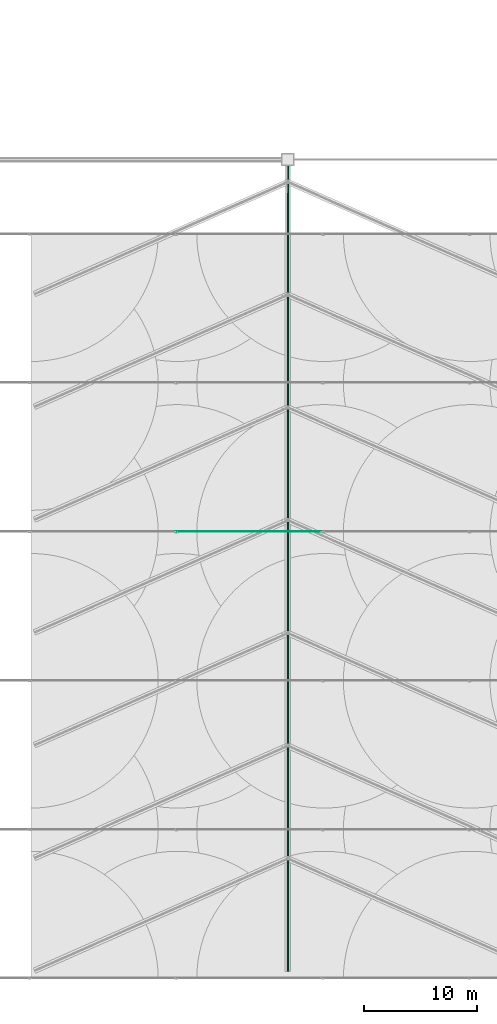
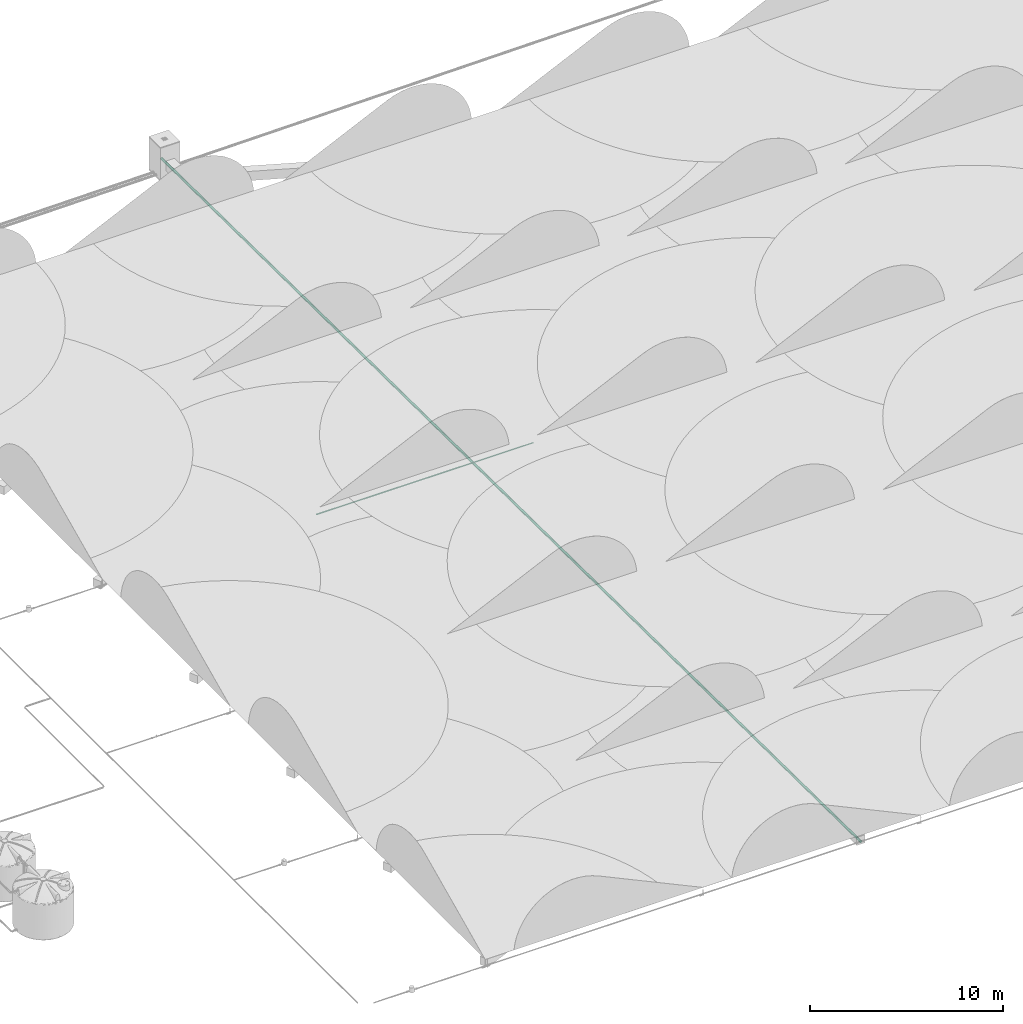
# One storey, part 19 of 166: 2 flow segments.
"""IFC2X3 building model written with IfcOpenShell, lengths in metres."""

from ifc_helpers import new_model, entity, si_unit, converted_unit, direction, frame, frame_2d, origin, origin_2d_with_axis, place, context, subcontext, project, spatial, circle, extrude, type_object, element, save


model = new_model("IFC2X3")

# Units and contexts
model_context = context("Model", 3, precision=1e-05, world=origin(), true_north=direction((6.123233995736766e-17, 1.0)))
body_context = subcontext(model_context, "Body", "Model", "MODEL_VIEW")
ifc_project = project(units=[si_unit("LENGTHUNIT", "METRE"), converted_unit("PLANEANGLEUNIT", "DEGREE", entity("IfcPlaneAngleMeasure", 0.017453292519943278), si_unit("PLANEANGLEUNIT", "RADIAN"), dimensions=[0, 0, 0, 0, 0, 0, 0]), si_unit("AREAUNIT", "SQUARE_METRE")], contexts=[model_context])

# Site, building, storey
site_placement = place(None, origin())
site = spatial("IfcSite", under=ifc_project, at=site_placement, Name="Default", CompositionType="ELEMENT")
building_placement = place(site_placement, origin())
building = spatial("IfcBuilding", under=site, at=building_placement, Name="CASA DE ACOLHIDA PARA IDOSOS", CompositionType="ELEMENT")
storey_placement = place(building_placement, frame((0.0, 0.0, -1.7499999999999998)))
storey = spatial("IfcBuildingStorey", under=building, at=storey_placement, Name="IMPLANTAÇÃO DRENAGEM", CompositionType="ELEMENT", Elevation=-1.7499999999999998)

# Flow segments
pipe_segment_type_1 = type_object("IfcPipeSegmentType", Name="Tipos de tubos:PLUV_Tubo PEAD Corrugado", PredefinedType="NOTDEFINED")
flow_segment_1_placement = place(storey_placement, origin())
element("IfcFlowSegment", 1, at=flow_segment_1_placement, inside=storey, type_object=pipe_segment_type_1, Name="Tipos de tubos:PLUV_Tubo PEAD Corrugado", ObjectType="Tipos de tubos:PLUV_Tubo PEAD Corrugado", context=body_context, shape_type="SweptSolid", body=[
    extrude(circle(Radius=0.07500000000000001, at=origin_2d_with_axis()), frame((-21.9813665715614, -16.139274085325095, -0.6952999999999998), z_axis=(0.0, 0.9999500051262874, -0.00999936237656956), x_axis=(-1.0, 0.0, 0.0)), (0.0, 0.0, 1.0), 72.29702677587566),
])
pipe_segment_type_2 = type_object("IfcPipeSegmentType", Name="Tipos de tubos:AF_Tubo Marrom Soldável", PredefinedType="NOTDEFINED")
flow_segment_2_placement = place(storey_placement, origin())
element("IfcFlowSegment", 2, at=flow_segment_2_placement, inside=storey, type_object=pipe_segment_type_2, Name="Tipos de tubos:AF_Tubo Marrom Soldável", ObjectType="Tipos de tubos:AF_Tubo Marrom Soldável", context=body_context, shape_type="SweptSolid", body=[
    extrude(circle(Radius=0.025, at=frame_2d((0.0, -2.707167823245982e-16), x_axis=(1.0, 0.0))), frame((-31.958348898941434, 22.85494207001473, -0.19999999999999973), z_axis=(1.0, 0.0, 0.0), x_axis=(0.0, -1.0, 0.0)), (0.0, 0.0, 1.0), 12.9348),
])

save(model, "model.ifc")
